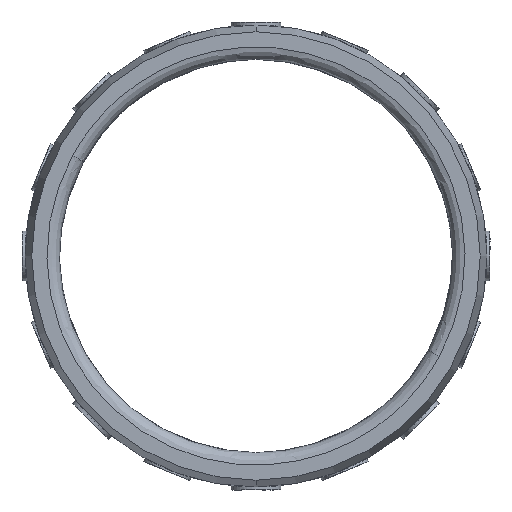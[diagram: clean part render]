
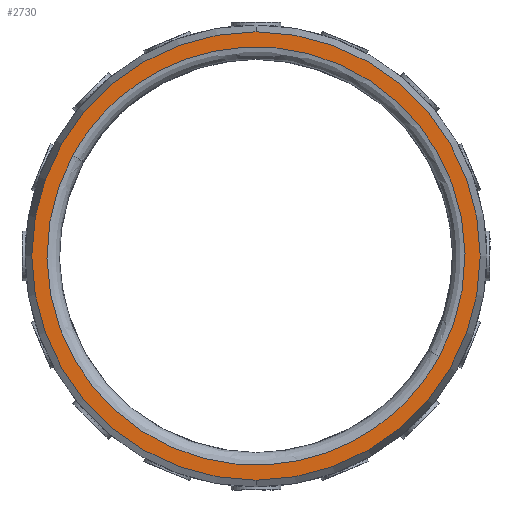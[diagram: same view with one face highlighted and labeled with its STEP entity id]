
A CAD part, front view. The second image highlights one B-rep face of the part: STEP entity #2730.
In plain terms, the highlighted planar face has unit normal (0, -1, 0).
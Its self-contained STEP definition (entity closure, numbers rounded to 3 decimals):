
#55 = CARTESIAN_POINT ( 'NONE',  ( -61.521, 0., -42.737 ) ) ;
#56 = CARTESIAN_POINT ( 'NONE',  ( -29.399, 0., 16.061 ) ) ;
#57 = CARTESIAN_POINT ( 'NONE',  ( 29.399, 0., -16.061 ) ) ;
#58 = CARTESIAN_POINT ( 'NONE',  ( -2.722, 0., -74.859 ) ) ;
#336 = DIRECTION ( 'NONE',  ( 0., 1., 0. ) ) ;
#337 = DIRECTION ( 'NONE',  ( 0., 0., 1. ) ) ;
#360 = CARTESIAN_POINT ( 'NONE',  ( 0., 0., 0. ) ) ;
#602 = DIRECTION ( 'NONE',  ( 0., 1., 0. ) ) ;
#607 = CARTESIAN_POINT ( 'NONE',  ( 0., 0., 0. ) ) ;
#646 = DIRECTION ( 'NONE',  ( 0., 0., 1. ) ) ;
#958 = ORIENTED_EDGE ( 'NONE', *, *, #2892, .F. ) ;
#1031 = EDGE_LOOP ( 'NONE', ( #958, #1089 ) ) ;
#1049 = ORIENTED_EDGE ( 'NONE', *, *, #2852, .F. ) ;
#1089 = ORIENTED_EDGE ( 'NONE', *, *, #2809, .F. ) ;
#1160 = EDGE_LOOP ( 'NONE', ( #1049, #3757 ) ) ;
#1169 = AXIS2_PLACEMENT_3D ( 'NONE', #1778, #1697, #1686 ) ;
#1240 = CIRCLE ( 'NONE', #1264, 35.928 ) ;
#1264 = AXIS2_PLACEMENT_3D ( 'NONE', #607, #602, #646 ) ;
#1686 = DIRECTION ( 'NONE',  ( 0., 0., 1. ) ) ;
#1697 = DIRECTION ( 'NONE',  ( 0., 1., 0. ) ) ;
#1754 = FACE_BOUND ( 'NONE', #1031, .T. ) ;
#1778 = CARTESIAN_POINT ( 'NONE',  ( 33.5, 0., 0. ) ) ;
#1818 = PLANE ( 'NONE',  #1169 ) ;
#1905 = FACE_OUTER_BOUND ( 'NONE', #1160, .T. ) ;
#2369 =( BOUNDED_CURVE ( )  B_SPLINE_CURVE ( 3, ( #3566, #3564, #3570, #3567 ),
 .UNSPECIFIED., .F., .F. ) 
 B_SPLINE_CURVE_WITH_KNOTS ( ( 4, 4 ),
 ( 0., 1. ),
 .UNSPECIFIED. ) 
 CURVE ( )  GEOMETRIC_REPRESENTATION_ITEM ( )  RATIONAL_B_SPLINE_CURVE ( ( 1., 0.333, 0.333, 1. ) ) 
 REPRESENTATION_ITEM ( '' )  );
#2371 =( BOUNDED_CURVE ( )  B_SPLINE_CURVE ( 3, ( #56, #55, #58, #57 ),
 .UNSPECIFIED., .F., .F. ) 
 B_SPLINE_CURVE_WITH_KNOTS ( ( 4, 4 ),
 ( 0., 1. ),
 .UNSPECIFIED. ) 
 CURVE ( )  GEOMETRIC_REPRESENTATION_ITEM ( )  RATIONAL_B_SPLINE_CURVE ( ( 1., 0.333, 0.333, 1. ) ) 
 REPRESENTATION_ITEM ( '' )  );
#2730 = ADVANCED_FACE ( 'NONE', ( #1754, #1905 ), #1818, .F. ) ;
#2809 = EDGE_CURVE ( 'NONE', #3653, #3624, #2369, .T. ) ;
#2852 = EDGE_CURVE ( 'NONE', #3677, #3664, #1240, .T. ) ;
#2892 = EDGE_CURVE ( 'NONE', #3624, #3653, #2371, .T. ) ;
#2943 = EDGE_CURVE ( 'NONE', #3664, #3677, #4278, .T. ) ;
#3214 = CARTESIAN_POINT ( 'NONE',  ( -29.399, 0., 16.061 ) ) ;
#3564 = CARTESIAN_POINT ( 'NONE',  ( 61.521, 0., 42.737 ) ) ;
#3566 = CARTESIAN_POINT ( 'NONE',  ( 29.399, 0., -16.061 ) ) ;
#3567 = CARTESIAN_POINT ( 'NONE',  ( -29.399, 0., 16.061 ) ) ;
#3570 = CARTESIAN_POINT ( 'NONE',  ( 2.722, 0., 74.859 ) ) ;
#3624 = VERTEX_POINT ( 'NONE', #3214 ) ;
#3653 = VERTEX_POINT ( 'NONE', #4031 ) ;
#3664 = VERTEX_POINT ( 'NONE', #4042 ) ;
#3677 = VERTEX_POINT ( 'NONE', #4055 ) ;
#3757 = ORIENTED_EDGE ( 'NONE', *, *, #2943, .F. ) ;
#4031 = CARTESIAN_POINT ( 'NONE',  ( 29.399, 0., -16.061 ) ) ;
#4042 = CARTESIAN_POINT ( 'NONE',  ( 0., 0., -35.928 ) ) ;
#4055 = CARTESIAN_POINT ( 'NONE',  ( 0., 0., 35.928 ) ) ;
#4278 = CIRCLE ( 'NONE', #4291, 35.928 ) ;
#4291 = AXIS2_PLACEMENT_3D ( 'NONE', #360, #336, #337 ) ;
